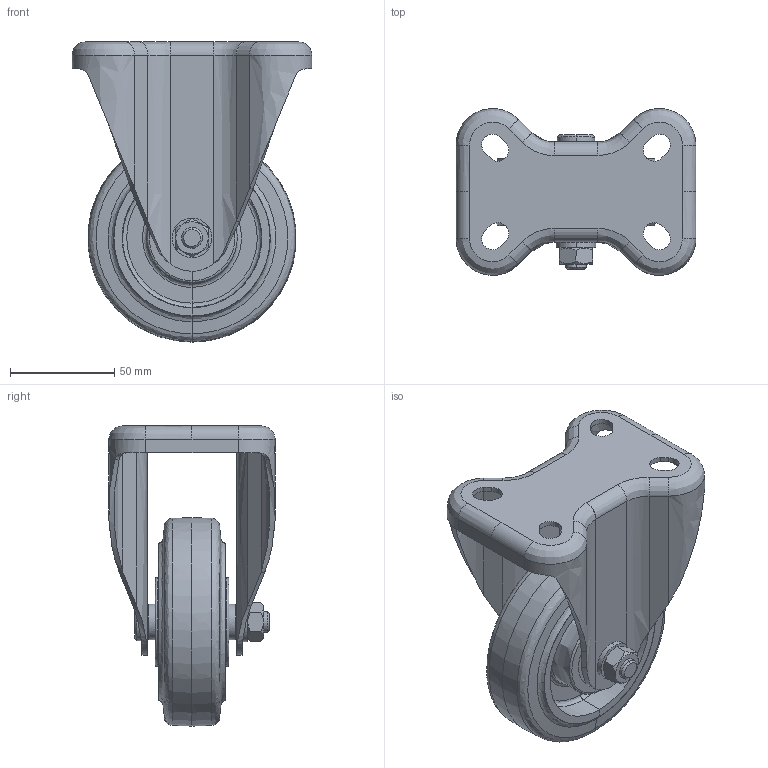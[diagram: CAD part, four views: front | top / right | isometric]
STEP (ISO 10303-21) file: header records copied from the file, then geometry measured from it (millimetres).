
FILE_DESCRIPTION (( 'STEP AP214' ), '1' );
FILE_NAME ('TR-100AWK-ALL.STEP', '2021-06-08T01:41:21', ( '' ), ( '' ), 'SwSTEP 2.0', 'SolidWorks 2010', '' );
FILE_SCHEMA (( 'AUTOMOTIVE_DESIGN' ));
Length unit declared in the file: millimetre
Products named in the file (7): TR-100AWK-10; TR-100AWK-11; TR-100AWK-12; TR-100AWK-13; TR-100AWK-14; TR-100AWK-15; TR-100AWK-ALL
Assembly tree (6 placements, depth 2):
  TR-100AWK-ALL
    TR-100AWK-12
    TR-100AWK-13
    TR-100AWK-11
    TR-100AWK-14
    TR-100AWK-10
    TR-100AWK-15
Bounding box: 115 x 80 x 144 mm (x, y, z)
Volume: 240589.5 mm3; surface area: 108776.6 mm2
Topology: 8 solids, 8 shells, 263 faces, 616 edges, 361 vertices
Faces by surface type: bspline 212, plane 51
Entity records: 31818 total; most frequent: CARTESIAN_POINT 27115, ORIENTED_EDGE 1232, EDGE_CURVE 616, B_SPLINE_CURVE_WITH_KNOTS 461, VERTEX_POINT 361, EDGE_LOOP 279, DIRECTION 275, ADVANCED_FACE 263
